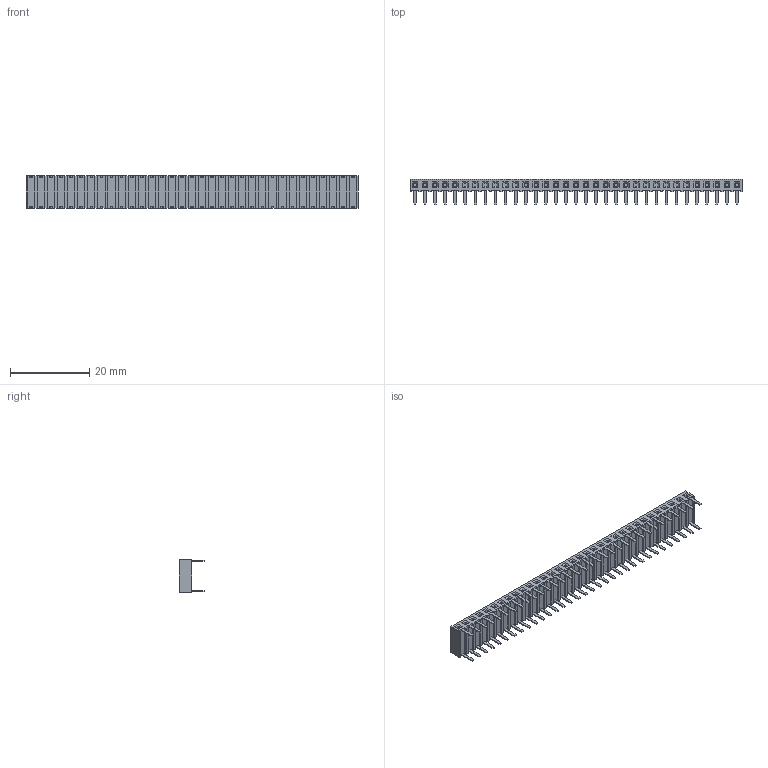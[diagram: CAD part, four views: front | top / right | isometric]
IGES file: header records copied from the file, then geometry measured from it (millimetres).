
Global section: file name: N:\GOLF_VI_2_54mm_UGII\960XXX-7102-XX (TS-2188)\960133-7102-XX.igs; native system: NX V3.0; preprocessor: UGS NX IGES V4.0; date: 20070618.080757; units: millimetre
Bounding box: 83.82 x 6.5 x 8.1 mm (x, y, z)
Surface area: 2997.9 mm2 (no closed solid volume)
Topology: 0 solids, 0 shells, 897 faces, 4513 edges, 4513 vertices
Faces by surface type: bspline 897
